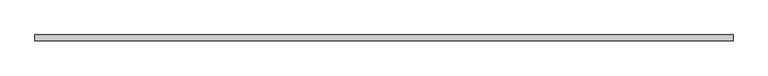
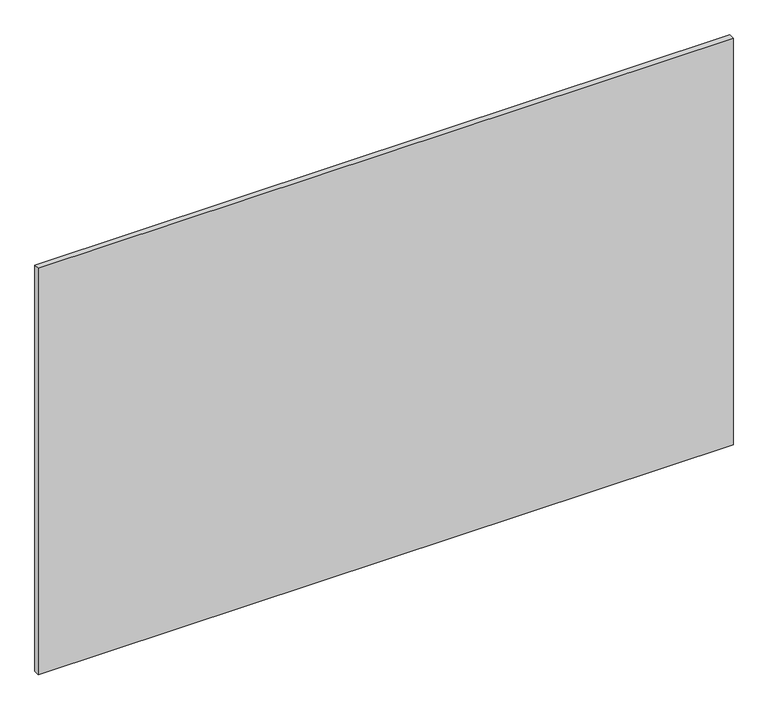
"""IFC4 building model written with IfcOpenShell, lengths in millimetres: plate geometry, Vitré."""

import ifcopenshell
import ifcopenshell.guid

model = None  # the IFC model being written
_history = None  # IfcOwnerHistory: only IFC2X3 demands one
_inside = {}  # id of a spatial element -> (the spatial element, [elements in it])
_under = {}  # id of a project, library or spatial element -> (it, [spatial elements below it])
_declared = {}  # id of a project -> (the project, [libraries it declares])
_typed = {}  # id of a type object -> (the type object, [elements of that type])
_made_of = {}  # id of a material, layer set ... -> (it, [elements and type objects made of it])


def new_model(schema):
    """Start an empty IFC model of exactly this schema.

    Asked for "IFC4X3", IfcOpenShell would pick the latest addendum, in which some entities
    have other attributes; the version numbers below select the first issue.
    IFC2X3 requires an IfcOwnerHistory on every rooted entity: one is made here for all.
    """
    global model, _history
    if schema == "IFC4X3":
        model = ifcopenshell.file(schema_version=(4, 3, 0, 0))
    else:
        model = ifcopenshell.file(schema=schema)
    _inside.clear()
    _under.clear()
    _declared.clear()
    _typed.clear()
    _made_of.clear()
    _history = None
    if model.schema == "IFC2X3":
        org = make("IfcOrganization", Name="unknown")
        user = make(
            "IfcPersonAndOrganization",
            ThePerson=make("IfcPerson", FamilyName="unknown"),
            TheOrganization=org,
        )
        app = make(
            "IfcApplication",
            ApplicationDeveloper=org,
            Version="unknown",
            ApplicationFullName="unknown",
            ApplicationIdentifier="unknown",
        )
        _history = make(
            "IfcOwnerHistory",
            OwningUser=user,
            OwningApplication=app,
            ChangeAction="ADDED",
            CreationDate=0,
        )
    return model


def make(cls, **values):
    """One entity of the class cls with the attributes given. An attribute that is None is left unset."""
    return model.create_entity(
        cls, **{name: value for name, value in values.items() if value is not None}
    )


def rooted(cls, **values):
    """An entity with a GlobalId (a new one), such as an element, a storey or a relation."""
    return make(cls, GlobalId=ifcopenshell.guid.new(), OwnerHistory=_history, **values)


def si_unit(unit_type, name, prefix=None):
    """IfcSIUnit, for example si_unit("LENGTHUNIT", "METRE", prefix="MILLI")."""
    return make("IfcSIUnit", UnitType=unit_type, Prefix=prefix, Name=name)


def assignment(units):
    """IfcUnitAssignment: the units of a project."""
    return None if units is None else make("IfcUnitAssignment", Units=units)


def point(xyz):
    """IfcCartesianPoint."""
    return None if xyz is None else make("IfcCartesianPoint", Coordinates=xyz)


def direction(xyz):
    """IfcDirection."""
    return None if xyz is None else make("IfcDirection", DirectionRatios=xyz)


def frame(location, z_axis=None, x_axis=None):
    """IfcAxis2Placement3D, a coordinate frame: its origin and axes. An axis left out is left unset."""
    return make(
        "IfcAxis2Placement3D",
        Location=point(location),
        Axis=direction(z_axis),
        RefDirection=direction(x_axis),
    )


def origin():
    """The frame at (0, 0, 0) with its axes left unset."""
    return frame((0.0, 0.0, 0.0))


def origin_with_axes():
    """The frame at (0, 0, 0) with the z axis (0, 0, 1) and the x axis (1, 0, 0) written out."""
    return frame((0.0, 0.0, 0.0), z_axis=(0.0, 0.0, 1.0), x_axis=(1.0, 0.0, 0.0))


def place(relative_to, where):
    """IfcLocalPlacement: puts the frame where relative to a parent placement (None: the world)."""
    return make(
        "IfcLocalPlacement", PlacementRelTo=relative_to, RelativePlacement=where
    )


def context(
    kind, dimensions, precision=None, world=None, true_north=None, identifier=None
):
    """IfcGeometricRepresentationContext, for example the 3D "Model" context."""
    return make(
        "IfcGeometricRepresentationContext",
        ContextIdentifier=identifier,
        ContextType=kind,
        CoordinateSpaceDimension=dimensions,
        Precision=precision,
        WorldCoordinateSystem=world,
        TrueNorth=true_north,
    )


def project(units=None, contexts=None):
    """IfcProject with its units and contexts."""
    return rooted(
        "IfcProject",
        Name="project",
        RepresentationContexts=contexts,
        UnitsInContext=assignment(units),
    )


def spatial(cls, under=None, at=None, **own):
    """A site, building, storey or space (cls), placed at a placement, below another one or the project."""
    s = rooted(cls, ObjectPlacement=at, **own)
    if under is not None:
        _under.setdefault(under.id(), (under, []))[1].append(s)
    return s


def polyline(points):
    """IfcPolyline through the points."""
    return make("IfcPolyline", Points=[point(p) for p in points])


def outline(outer, holes=None, kind="AREA"):
    """IfcArbitraryClosedProfileDef: a profile drawn as a closed curve; with holes, ...WithVoids."""
    if holes is None:
        return make("IfcArbitraryClosedProfileDef", ProfileType=kind, OuterCurve=outer)
    return make(
        "IfcArbitraryProfileDefWithVoids",
        ProfileType=kind,
        OuterCurve=outer,
        InnerCurves=holes,
    )


def extrude(swept, where, along, depth):
    """IfcExtrudedAreaSolid: the profile swept, set in the frame where, extruded along a direction by depth."""
    return make(
        "IfcExtrudedAreaSolid",
        SweptArea=swept,
        Position=where,
        ExtrudedDirection=direction(along),
        Depth=depth,
    )


def shape(context_of_items, identifier, shape_type, items):
    """IfcShapeRepresentation: the items that make up one representation, for example the "Body"."""
    return make(
        "IfcShapeRepresentation",
        ContextOfItems=context_of_items,
        RepresentationIdentifier=identifier,
        RepresentationType=shape_type,
        Items=items,
    )


def source(mapping_origin, context_of_items, identifier, shape_type, items):
    """IfcRepresentationMap: a shape defined once, which mapped items show again and again."""
    return make(
        "IfcRepresentationMap",
        MappingOrigin=mapping_origin,
        MappedRepresentation=shape(context_of_items, identifier, shape_type, items),
    )


def transform(
    local_origin,
    x_axis=None,
    y_axis=None,
    z_axis=None,
    scale=None,
    scale2=None,
    scale3=None,
    uniform=True,
):
    """IfcCartesianTransformationOperator3D, or its non-uniform kind. x_axis, y_axis, z_axis: its Axis1, 2, 3."""
    if uniform:
        return make(
            "IfcCartesianTransformationOperator3D",
            Axis1=direction(x_axis),
            Axis2=direction(y_axis),
            LocalOrigin=point(local_origin),
            Scale=scale,
            Axis3=direction(z_axis),
        )
    return make(
        "IfcCartesianTransformationOperator3DnonUniform",
        Axis1=direction(x_axis),
        Axis2=direction(y_axis),
        LocalOrigin=point(local_origin),
        Scale=scale,
        Axis3=direction(z_axis),
        Scale2=scale2,
        Scale3=scale3,
    )


def mapped(mapping_source, mapping_target):
    """IfcMappedItem: shows the shape of a source again, moved by a transform."""
    return make(
        "IfcMappedItem", MappingSource=mapping_source, MappingTarget=mapping_target
    )


def made_of(thing, what):
    """Note that an element or type object is made of a material, layer set ...; save() writes the relation."""
    if what is not None:
        _made_of.setdefault(what.id(), (what, []))[1].append(thing)
    return thing


def element(
    cls,
    number,
    at=None,
    inside=None,
    cuts=None,
    type_object=None,
    material=None,
    context=None,
    identifier="Body",
    shape_type=None,
    held_by="IfcProductDefinitionShape",
    body=None,
    shapes=None,
    **own,
):
    """One element of the class cls, such as IfcWall. Its Tag is "e" and its number.

    at: its placement. inside: the storey or other place that contains it. cuts: it is an
    opening in that element (IfcRelVoidsElement). A single representation is given by context,
    identifier, shape_type and body (its items); several are given by shapes. held_by: the class
    of the entity that holds the representations. save() writes the other relations.
    """
    e = rooted(cls, Tag="e%d" % number, ObjectPlacement=at, **own)
    if body is not None:
        shapes = [shape(context, identifier, shape_type, body)]
    if shapes is not None:
        e.Representation = make(held_by, Representations=shapes)
    if inside is not None:
        _inside.setdefault(inside.id(), (inside, []))[1].append(e)
    if cuts is not None:
        rooted(
            "IfcRelVoidsElement", RelatingBuildingElement=cuts, RelatedOpeningElement=e
        )
    if type_object is not None:
        _typed.setdefault(type_object.id(), (type_object, []))[1].append(e)
    return made_of(e, material)


def aggregate(whole, parts):
    """IfcRelAggregates: a whole, such as a stair, and the parts it consists of."""
    return rooted("IfcRelAggregates", RelatingObject=whole, RelatedObjects=parts)


def save(model, path):
    """Write the relations noted so far, then the file.

    IfcRelAggregates (storeys below a building ...), IfcRelContainedInSpatialStructure (elements
    in a storey), IfcRelDefinesByType, IfcRelAssociatesMaterial and IfcRelDeclares: one each for
    every whole, place, type object, material and project.
    """
    for whole, parts in _under.values():
        aggregate(whole, parts)
    for where, things in _inside.values():
        rooted(
            "IfcRelContainedInSpatialStructure",
            RelatedElements=things,
            RelatingStructure=where,
        )
    for kind, things in _typed.values():
        rooted("IfcRelDefinesByType", RelatedObjects=things, RelatingType=kind)
    for what, things in _made_of.values():
        rooted("IfcRelAssociatesMaterial", RelatedObjects=things, RelatingMaterial=what)
    for by, libraries in _declared.values():
        rooted("IfcRelDeclares", RelatingContext=by, RelatedDefinitions=libraries)
    model.write(path)


def plate_d7072fa1(model_context):
    return source(origin(), model_context, "Body", "SweptSolid", [
        extrude(outline(polyline([(-2450.0, -20.0), (-2450.0, 20.0), (2450.0, 20.0), (2450.0, -20.0), (-2450.0, -20.0)])), origin_with_axes(), (0.0, 0.0, 1.0), 3030.0),
    ])


if __name__ == "__main__":
    model = new_model("IFC4")
    model_context = context("Model", 3, world=origin())
    ifc_project = project(units=[si_unit("LENGTHUNIT", "METRE", prefix="MILLI")], contexts=[model_context])
    site = spatial("IfcSite", under=ifc_project)
    building = spatial("IfcBuilding", under=site)
    placement = place(None, origin())
    plate_shape = plate_d7072fa1(model_context)
    element("IfcPlate", 1, ObjectType="Vitré", at=placement, inside=building, context=model_context, shape_type="MappedRepresentation", body=[
        mapped(plate_shape, transform((0.0, 0.0, 0.0), x_axis=(1.0, 0.0, 0.0), y_axis=(0.0, 1.0, 0.0), z_axis=(0.0, 0.0, 1.0))),
    ])
    save(model, "model.ifc")
